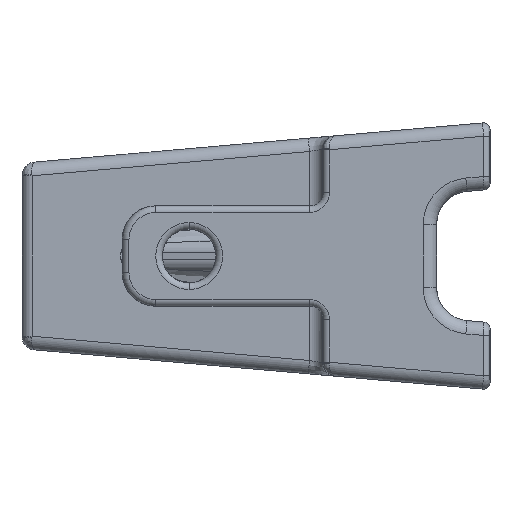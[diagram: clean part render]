
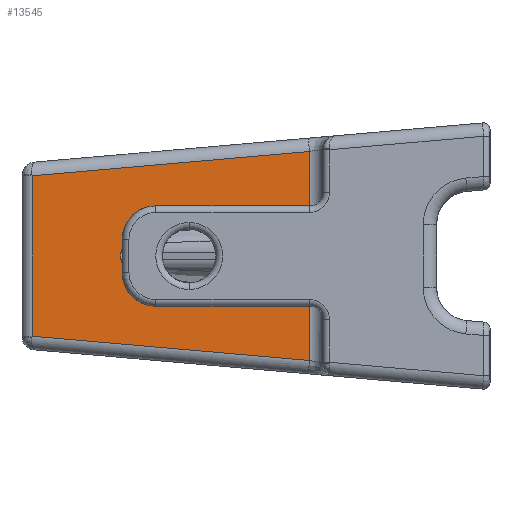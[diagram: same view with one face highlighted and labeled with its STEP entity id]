
A CAD part, left-side view. The second image highlights one B-rep face of the part: STEP entity #13545.
In plain terms, the highlighted planar face has unit normal (-1, 0, 0).
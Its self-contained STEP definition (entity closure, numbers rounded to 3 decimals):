
#87 =( BOUNDED_CURVE ( )  B_SPLINE_CURVE ( 3, ( #11156, #13443, #14757, #9987 ),
 .UNSPECIFIED., .F., .F. ) 
 B_SPLINE_CURVE_WITH_KNOTS ( ( 4, 4 ),
 ( 1.571, 3.142 ),
 .UNSPECIFIED. ) 
 CURVE ( )  GEOMETRIC_REPRESENTATION_ITEM ( )  RATIONAL_B_SPLINE_CURVE ( ( 1., 0.805, 0.805, 1. ) ) 
 REPRESENTATION_ITEM ( '' )  );
#113 = VECTOR ( 'NONE', #253, 1000. ) ;
#253 = DIRECTION ( 'NONE',  ( 0., 0., 1. ) ) ;
#270 = AXIS2_PLACEMENT_3D ( 'NONE', #5567, #4232, #4334 ) ;
#290 = LINE ( 'NONE', #4410, #8530 ) ;
#417 = VERTEX_POINT ( 'NONE', #10852 ) ;
#564 = LINE ( 'NONE', #12970, #12667 ) ;
#654 = LINE ( 'NONE', #3084, #2651 ) ;
#852 = CARTESIAN_POINT ( 'NONE',  ( -40., 55.198, 0.5 ) ) ;
#898 = ORIENTED_EDGE ( 'NONE', *, *, #14501, .T. ) ;
#927 = CARTESIAN_POINT ( 'NONE',  ( -40., 27., -4.5 ) ) ;
#1041 = FACE_OUTER_BOUND ( 'NONE', #14949, .T. ) ;
#1202 = CARTESIAN_POINT ( 'NONE',  ( -40., 27., 17.813 ) ) ;
#1292 = VECTOR ( 'NONE', #4727, 1000. ) ;
#1583 = VECTOR ( 'NONE', #6886, 1000. ) ;
#1636 = EDGE_CURVE ( 'NONE', #8263, #14718, #654, .T. ) ;
#1661 = EDGE_CURVE ( 'NONE', #12046, #8263, #290, .T. ) ;
#1964 = ORIENTED_EDGE ( 'NONE', *, *, #8139, .T. ) ;
#2534 = VERTEX_POINT ( 'NONE', #6061 ) ;
#2565 = ORIENTED_EDGE ( 'NONE', *, *, #1661, .T. ) ;
#2601 = DIRECTION ( 'NONE',  ( 0., -0.996, -0.087 ) ) ;
#2651 = VECTOR ( 'NONE', #6684, 1000. ) ;
#3084 = CARTESIAN_POINT ( 'NONE',  ( -40., 68.5, -13.876 ) ) ;
#3373 = EDGE_CURVE ( 'NONE', #14718, #11565, #10358, .T. ) ;
#4032 = LINE ( 'NONE', #1202, #12119 ) ;
#4212 = ORIENTED_EDGE ( 'NONE', *, *, #7738, .T. ) ;
#4232 = DIRECTION ( 'NONE',  ( 1., 0., 0. ) ) ;
#4334 = DIRECTION ( 'NONE',  ( 0., 1., 0. ) ) ;
#4377 = LINE ( 'NONE', #9435, #1292 ) ;
#4400 = CARTESIAN_POINT ( 'NONE',  ( -40., 55.198, 2.843 ) ) ;
#4410 = CARTESIAN_POINT ( 'NONE',  ( -40., 72.767, 11.626 ) ) ;
#4727 = DIRECTION ( 'NONE',  ( 0., -1., 0. ) ) ;
#5121 =( BOUNDED_CURVE ( )  B_SPLINE_CURVE ( 3, ( #852, #4400, #9405, #7086 ),
 .UNSPECIFIED., .F., .F. ) 
 B_SPLINE_CURVE_WITH_KNOTS ( ( 4, 4 ),
 ( 0., 1.571 ),
 .UNSPECIFIED. ) 
 CURVE ( )  GEOMETRIC_REPRESENTATION_ITEM ( )  RATIONAL_B_SPLINE_CURVE ( ( 1., 0.805, 0.805, 1. ) ) 
 REPRESENTATION_ITEM ( '' )  );
#5554 = CARTESIAN_POINT ( 'NONE',  ( -40., 68.5, 11.999 ) ) ;
#5567 = CARTESIAN_POINT ( 'NONE',  ( -40., 70., -20. ) ) ;
#5659 = VERTEX_POINT ( 'NONE', #927 ) ;
#6061 = CARTESIAN_POINT ( 'NONE',  ( -40., 27., 4.5 ) ) ;
#6085 = CARTESIAN_POINT ( 'NONE',  ( -40., 69.294, -11.93 ) ) ;
#6684 = DIRECTION ( 'NONE',  ( 0., 0., -1. ) ) ;
#6796 = DIRECTION ( 'NONE',  ( 0., 0.996, -0.087 ) ) ;
#6842 = CARTESIAN_POINT ( 'NONE',  ( -40., 44.802, -4.5 ) ) ;
#6886 = DIRECTION ( 'NONE',  ( 0., 1., 0. ) ) ;
#6944 = EDGE_CURVE ( 'NONE', #2534, #12046, #4032, .T. ) ;
#7086 = CARTESIAN_POINT ( 'NONE',  ( -40., 34.802, 4.5 ) ) ;
#7473 = CARTESIAN_POINT ( 'NONE',  ( -40., 34.802, -4.5 ) ) ;
#7738 = EDGE_CURVE ( 'NONE', #11565, #5659, #564, .T. ) ;
#7902 = VERTEX_POINT ( 'NONE', #13373 ) ;
#8139 = EDGE_CURVE ( 'NONE', #7902, #2534, #4377, .T. ) ;
#8263 = VERTEX_POINT ( 'NONE', #5554 ) ;
#8530 = VECTOR ( 'NONE', #6796, 1000. ) ;
#8601 = CARTESIAN_POINT ( 'NONE',  ( -40., 55.198, -0.5 ) ) ;
#9405 = CARTESIAN_POINT ( 'NONE',  ( -40., 46.75, 4.5 ) ) ;
#9415 = DIRECTION ( 'NONE',  ( 0., 0., 1. ) ) ;
#9435 = CARTESIAN_POINT ( 'NONE',  ( -40., 70., 4.5 ) ) ;
#9472 = LINE ( 'NONE', #9595, #113 ) ;
#9595 = CARTESIAN_POINT ( 'NONE',  ( -40., 55.198, 0.5 ) ) ;
#9879 = ORIENTED_EDGE ( 'NONE', *, *, #3373, .T. ) ;
#9987 = CARTESIAN_POINT ( 'NONE',  ( -40., 55.198, -0.5 ) ) ;
#10358 = LINE ( 'NONE', #6085, #12721 ) ;
#10694 = EDGE_CURVE ( 'NONE', #12298, #12286, #87, .T. ) ;
#10852 = CARTESIAN_POINT ( 'NONE',  ( -40., 55.198, 0.5 ) ) ;
#10985 = ORIENTED_EDGE ( 'NONE', *, *, #6944, .T. ) ;
#11079 = CARTESIAN_POINT ( 'NONE',  ( -40., 68.5, -11.999 ) ) ;
#11156 = CARTESIAN_POINT ( 'NONE',  ( -40., 34.802, -4.5 ) ) ;
#11308 = CARTESIAN_POINT ( 'NONE',  ( -40., 27., 15.63 ) ) ;
#11310 = LINE ( 'NONE', #6842, #1583 ) ;
#11565 = VERTEX_POINT ( 'NONE', #13102 ) ;
#11755 = EDGE_CURVE ( 'NONE', #5659, #12298, #11310, .T. ) ;
#12046 = VERTEX_POINT ( 'NONE', #11308 ) ;
#12061 = ORIENTED_EDGE ( 'NONE', *, *, #10694, .T. ) ;
#12119 = VECTOR ( 'NONE', #9415, 1000. ) ;
#12199 = EDGE_CURVE ( 'NONE', #12286, #417, #9472, .T. ) ;
#12286 = VERTEX_POINT ( 'NONE', #8601 ) ;
#12298 = VERTEX_POINT ( 'NONE', #7473 ) ;
#12667 = VECTOR ( 'NONE', #14152, 1000. ) ;
#12721 = VECTOR ( 'NONE', #2601, 1000. ) ;
#12970 = CARTESIAN_POINT ( 'NONE',  ( -40., 27., -4.5 ) ) ;
#13102 = CARTESIAN_POINT ( 'NONE',  ( -40., 27., -15.63 ) ) ;
#13244 = ORIENTED_EDGE ( 'NONE', *, *, #11755, .T. ) ;
#13373 = CARTESIAN_POINT ( 'NONE',  ( -40., 34.802, 4.5 ) ) ;
#13443 = CARTESIAN_POINT ( 'NONE',  ( -40., 46.75, -4.5 ) ) ;
#13545 = ADVANCED_FACE ( 'NONE', ( #1041 ), #14727, .F. ) ;
#13736 = ORIENTED_EDGE ( 'NONE', *, *, #12199, .T. ) ;
#14152 = DIRECTION ( 'NONE',  ( 0., 0., 1. ) ) ;
#14501 = EDGE_CURVE ( 'NONE', #417, #7902, #5121, .T. ) ;
#14621 = ORIENTED_EDGE ( 'NONE', *, *, #1636, .T. ) ;
#14718 = VERTEX_POINT ( 'NONE', #11079 ) ;
#14727 = PLANE ( 'NONE',  #270 ) ;
#14757 = CARTESIAN_POINT ( 'NONE',  ( -40., 55.198, -2.843 ) ) ;
#14949 = EDGE_LOOP ( 'NONE', ( #10985, #2565, #14621, #9879, #4212, #13244, #12061, #13736, #898, #1964 ) ) ;
